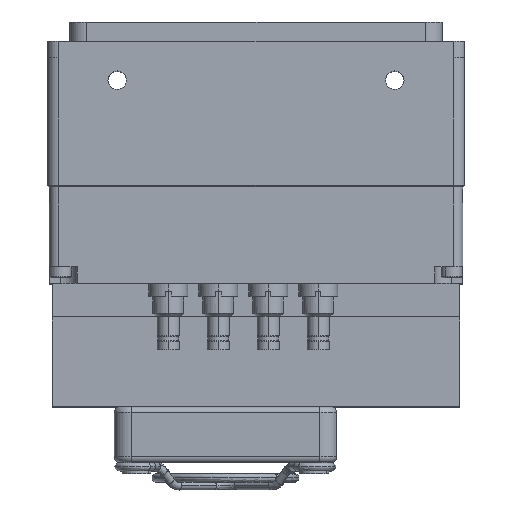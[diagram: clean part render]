
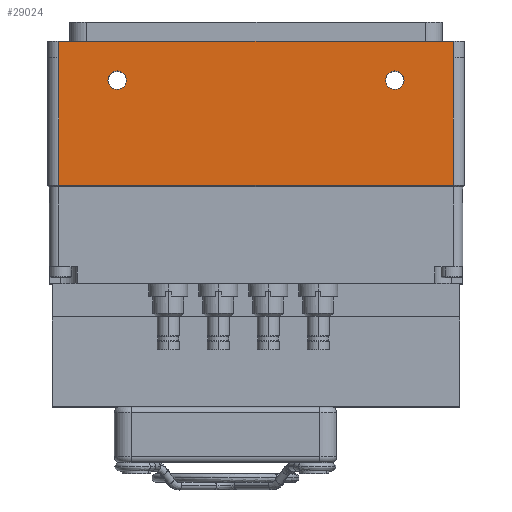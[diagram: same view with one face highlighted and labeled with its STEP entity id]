
A CAD part, top view. The second image highlights one B-rep face of the part: STEP entity #29024.
In plain terms, the highlighted planar face has unit normal (0, 0, 1).
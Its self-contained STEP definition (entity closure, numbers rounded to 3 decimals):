
#18 = ORIENTED_EDGE ( 'NONE', *, *, #3832, .T. ) ;
#29 = CARTESIAN_POINT ( 'NONE',  ( -68., 17.75, 37.5 ) ) ;
#238 = EDGE_CURVE ( 'NONE', #29019, #6259, #18673, .T. ) ;
#358 = CARTESIAN_POINT ( 'NONE',  ( -45.5, 17.75, 37.5 ) ) ;
#518 = DIRECTION ( 'NONE',  ( 1., 0., 0. ) ) ;
#1060 = DIRECTION ( 'NONE',  ( 0., 0., 1. ) ) ;
#1258 = VECTOR ( 'NONE', #9448, 1000. ) ;
#1261 = ORIENTED_EDGE ( 'NONE', *, *, #28971, .T. ) ;
#1314 = ORIENTED_EDGE ( 'NONE', *, *, #22919, .F. ) ;
#1519 = CARTESIAN_POINT ( 'NONE',  ( -35., 34.95, 37.5 ) ) ;
#1912 = VERTEX_POINT ( 'NONE', #1519 ) ;
#1963 = DIRECTION ( 'NONE',  ( 0., 1., 0. ) ) ;
#2065 = CIRCLE ( 'NONE', #22706, 1.65 ) ;
#2810 = AXIS2_PLACEMENT_3D ( 'NONE', #29, #25903, #21095 ) ;
#3213 = VECTOR ( 'NONE', #518, 1000. ) ;
#3554 = CARTESIAN_POINT ( 'NONE',  ( 15., 36.6, 37.5 ) ) ;
#3832 = EDGE_CURVE ( 'NONE', #4076, #14130, #14917, .T. ) ;
#4004 = ORIENTED_EDGE ( 'NONE', *, *, #32275, .T. ) ;
#4076 = VERTEX_POINT ( 'NONE', #28602 ) ;
#4315 = DIRECTION ( 'NONE',  ( 0., 1., 0. ) ) ;
#4507 = CIRCLE ( 'NONE', #16081, 1.65 ) ;
#4581 = EDGE_CURVE ( 'NONE', #8625, #20053, #22839, .T. ) ;
#4711 = VECTOR ( 'NONE', #4808, 1000. ) ;
#4808 = DIRECTION ( 'NONE',  ( 0., 1., 0. ) ) ;
#5640 = AXIS2_PLACEMENT_3D ( 'NONE', #3554, #16511, #1963 ) ;
#5762 = DIRECTION ( 'NONE',  ( 0., 1., 0. ) ) ;
#6175 = ORIENTED_EDGE ( 'NONE', *, *, #8665, .T. ) ;
#6259 = VERTEX_POINT ( 'NONE', #15420 ) ;
#7640 = VECTOR ( 'NONE', #30289, 1000. ) ;
#8625 = VERTEX_POINT ( 'NONE', #14499 ) ;
#8665 = EDGE_CURVE ( 'NONE', #6259, #11338, #20526, .T. ) ;
#9367 = CARTESIAN_POINT ( 'NONE',  ( 25.5, 43.6, 37.5 ) ) ;
#9448 = DIRECTION ( 'NONE',  ( 0., 1., 0. ) ) ;
#10828 = AXIS2_PLACEMENT_3D ( 'NONE', #24677, #26263, #5762 ) ;
#10991 = VERTEX_POINT ( 'NONE', #30802 ) ;
#11338 = VERTEX_POINT ( 'NONE', #9367 ) ;
#11437 = CARTESIAN_POINT ( 'NONE',  ( -47.5, 43.6, 37.5 ) ) ;
#12391 = CARTESIAN_POINT ( 'NONE',  ( -35., 36.6, 37.5 ) ) ;
#13957 = CARTESIAN_POINT ( 'NONE',  ( 46., 17.7, 37.5 ) ) ;
#14100 = DIRECTION ( 'NONE',  ( 0., -1., 0. ) ) ;
#14130 = VERTEX_POINT ( 'NONE', #32207 ) ;
#14499 = CARTESIAN_POINT ( 'NONE',  ( 15., 38.25, 37.5 ) ) ;
#14569 = EDGE_CURVE ( 'NONE', #1912, #10991, #4507, .T. ) ;
#14917 = LINE ( 'NONE', #358, #26300 ) ;
#15072 = LINE ( 'NONE', #13957, #3213 ) ;
#15097 = VERTEX_POINT ( 'NONE', #28208 ) ;
#15099 = FACE_OUTER_BOUND ( 'NONE', #19076, .T. ) ;
#15420 = CARTESIAN_POINT ( 'NONE',  ( 25.5, 40.6, 37.5 ) ) ;
#16081 = AXIS2_PLACEMENT_3D ( 'NONE', #28628, #26999, #4315 ) ;
#16511 = DIRECTION ( 'NONE',  ( 0., 0., 1. ) ) ;
#18353 = FACE_BOUND ( 'NONE', #19288, .T. ) ;
#18673 = LINE ( 'NONE', #23003, #1258 ) ;
#19007 = CARTESIAN_POINT ( 'NONE',  ( -45.5, 17.75, 37.5 ) ) ;
#19076 = EDGE_LOOP ( 'NONE', ( #32595, #6175, #22441, #4004, #18, #1261 ) ) ;
#19288 = EDGE_LOOP ( 'NONE', ( #1314, #33022 ) ) ;
#20053 = VERTEX_POINT ( 'NONE', #31481 ) ;
#20526 = LINE ( 'NONE', #31795, #4711 ) ;
#21095 = DIRECTION ( 'NONE',  ( 1., 0., 0. ) ) ;
#21173 = LINE ( 'NONE', #19007, #31429 ) ;
#21984 = DIRECTION ( 'NONE',  ( 0., -1., 0. ) ) ;
#22146 = FACE_BOUND ( 'NONE', #31715, .T. ) ;
#22317 = ORIENTED_EDGE ( 'NONE', *, *, #26752, .F. ) ;
#22441 = ORIENTED_EDGE ( 'NONE', *, *, #22553, .F. ) ;
#22553 = EDGE_CURVE ( 'NONE', #15097, #11338, #26010, .T. ) ;
#22706 = AXIS2_PLACEMENT_3D ( 'NONE', #12391, #1060, #23731 ) ;
#22839 = CIRCLE ( 'NONE', #10828, 1.65 ) ;
#22919 = EDGE_CURVE ( 'NONE', #10991, #1912, #2065, .T. ) ;
#23003 = CARTESIAN_POINT ( 'NONE',  ( 25.5, 17.75, 37.5 ) ) ;
#23731 = DIRECTION ( 'NONE',  ( 0., 1., 0. ) ) ;
#24677 = CARTESIAN_POINT ( 'NONE',  ( 15., 36.6, 37.5 ) ) ;
#25903 = DIRECTION ( 'NONE',  ( 0., 0., -1. ) ) ;
#26010 = LINE ( 'NONE', #11437, #7640 ) ;
#26263 = DIRECTION ( 'NONE',  ( 0., 0., 1. ) ) ;
#26300 = VECTOR ( 'NONE', #21984, 1000. ) ;
#26752 = EDGE_CURVE ( 'NONE', #20053, #8625, #28587, .T. ) ;
#26999 = DIRECTION ( 'NONE',  ( 0., 0., 1. ) ) ;
#28064 = PLANE ( 'NONE',  #2810 ) ;
#28208 = CARTESIAN_POINT ( 'NONE',  ( -45.5, 43.6, 37.5 ) ) ;
#28587 = CIRCLE ( 'NONE', #5640, 1.65 ) ;
#28602 = CARTESIAN_POINT ( 'NONE',  ( -45.5, 40.6, 37.5 ) ) ;
#28628 = CARTESIAN_POINT ( 'NONE',  ( -35., 36.6, 37.5 ) ) ;
#28971 = EDGE_CURVE ( 'NONE', #14130, #29019, #15072, .T. ) ;
#29019 = VERTEX_POINT ( 'NONE', #30702 ) ;
#29024 = ADVANCED_FACE ( 'NONE', ( #22146, #18353, #15099 ), #28064, .F. ) ;
#29369 = ORIENTED_EDGE ( 'NONE', *, *, #4581, .F. ) ;
#30289 = DIRECTION ( 'NONE',  ( 1., 0., 0. ) ) ;
#30702 = CARTESIAN_POINT ( 'NONE',  ( 25.5, 17.7, 37.5 ) ) ;
#30802 = CARTESIAN_POINT ( 'NONE',  ( -35., 38.25, 37.5 ) ) ;
#31429 = VECTOR ( 'NONE', #14100, 1000. ) ;
#31481 = CARTESIAN_POINT ( 'NONE',  ( 15., 34.95, 37.5 ) ) ;
#31715 = EDGE_LOOP ( 'NONE', ( #29369, #22317 ) ) ;
#31795 = CARTESIAN_POINT ( 'NONE',  ( 25.5, 17.75, 37.5 ) ) ;
#32207 = CARTESIAN_POINT ( 'NONE',  ( -45.5, 17.7, 37.5 ) ) ;
#32275 = EDGE_CURVE ( 'NONE', #15097, #4076, #21173, .T. ) ;
#32595 = ORIENTED_EDGE ( 'NONE', *, *, #238, .T. ) ;
#33022 = ORIENTED_EDGE ( 'NONE', *, *, #14569, .F. ) ;
